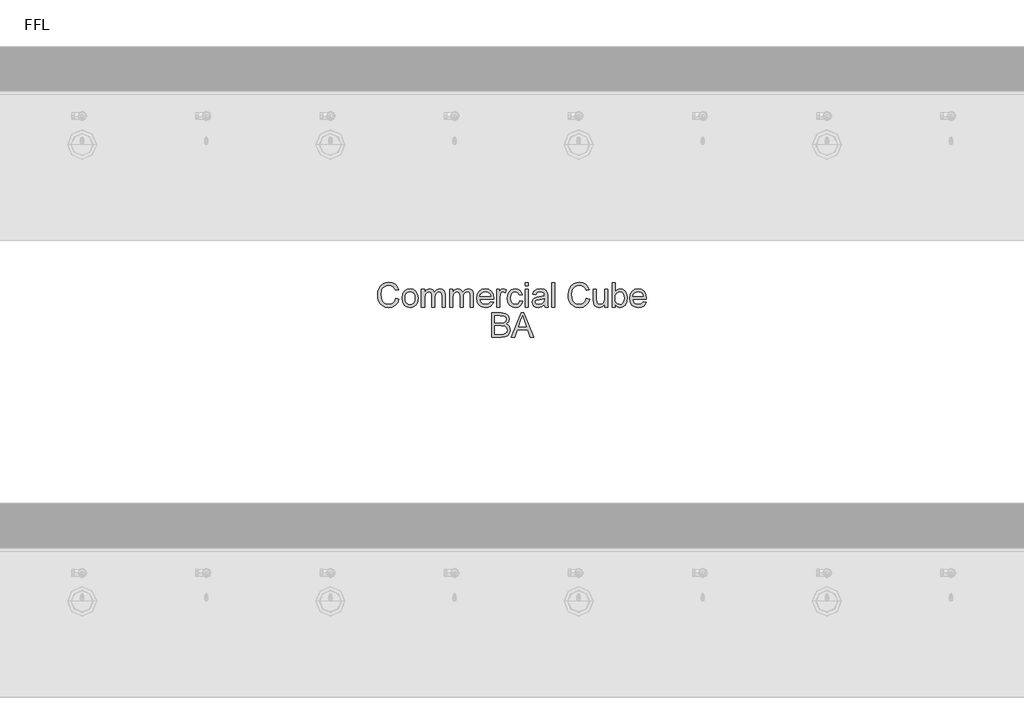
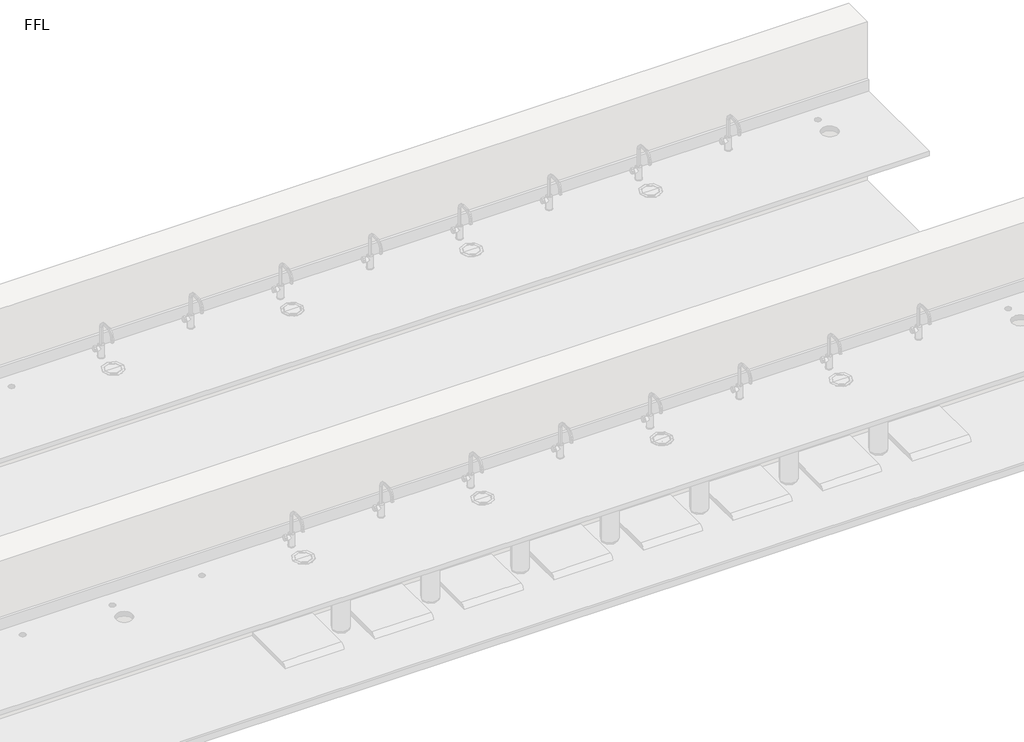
# One storey, part 14 of 14: 1 proxy.
"""IFC4 building model written with IfcOpenShell, lengths in millimetres."""

from ifc_helpers import new_model, si_unit, origin, origin_with_axes, place, context, project, spatial, polyline, outline, extrude, element, save

model = new_model("IFC4")

# Units and contexts
model_context = context("Model", 3, world=origin())
ifc_project = project(units=[si_unit("LENGTHUNIT", "METRE", prefix="MILLI")], contexts=[model_context])

# Site, building, storey
site = spatial("IfcSite", under=ifc_project)
building = spatial("IfcBuilding", under=site)
storey = spatial("IfcBuildingStorey", under=building, Name="FFL", Elevation=0.0)

# Proxy
placement = place(None, origin())
element("IfcBuildingElementProxy", 1, Name="150mm Arial", ObjectType="150mm Arial", at=placement, inside=storey, context=model_context, shape_type="SweptSolid", body=[
    extrude(outline(polyline([(6926.0339379, 6596.3018309), (6944.4954764, 6591.5422155), (6935.9768466, 6570.0292948), (6922.6084571, 6554.3126482), (6905.048361, 6544.698766), (6883.954611, 6541.4941386), (6862.540849, 6543.9190184), (6845.5351398, 6551.1936578), (6832.5002841, 6563.065653), (6822.9990821, 6579.2826001), (6817.1983009, 6598.3481049), (6815.2647071, 6618.7657732), (6817.4507047, 6640.3012299), (6824.0086975, 6658.8979847), (6834.5961374, 6673.9655929), (6848.8704764, 6684.9136097), (6865.7995629, 6691.5797756), (6884.3512456, 6693.8018309), (6904.5931326, 6690.9262299), (6921.3284091, 6682.299427), (6934.0342384, 6668.4532732), (6942.1877841, 6649.9196193), (6923.7262456, 6645.5205809), (6917.3260052, 6658.9836217), (6908.5820148, 6668.2188982), (6897.3861014, 6673.5599439), (6883.6300917, 6675.3402924), (6867.7737216, 6673.3661338), (6854.7478802, 6667.4436578), (6844.8635653, 6658.1948597), (6838.4317744, 6646.2417347), (6833.7262456, 6618.8018309), (6839.2971591, 6586.9989463), (6846.4185533, 6575.1224439), (6856.6409091, 6566.6804367), (6868.8960172, 6561.6368669), (6882.1156687, 6559.955677), (6897.5258249, 6562.2453405), (6910.3668706, 6569.1143309), (6920.0618826, 6580.4905328), (6926.0339379, 6596.3018309)])), origin_with_axes(), (0.0, 0.0, 1.0), 5.0),
    extrude(outline(polyline([(6962.9570148, 6598.0326001), (6966.9504042, 6624.1834415), (6978.9305725, 6642.5638501), (6993.7322552, 6651.5692588), (7011.454611, 6654.5710617), (7030.8491422, 6650.9157131), (7046.3404283, 6639.9496674), (7056.4951759, 6622.5383092), (7059.8800917, 6599.5470232), (7058.3836975, 6580.8961818), (7053.8945148, 6566.6984655), (7046.5432528, 6556.0659535), (7036.4606206, 6548.1107251), (7024.4849595, 6543.1482852), (7011.454611, 6541.4941386), (6991.8257047, 6545.1359655), (6976.3524475, 6556.0614463), (6966.305873, 6573.8378886), (6962.9570148, 6598.0326001)]), holes=[polyline([(6981.4185533, 6598.0686578), (6983.5549716, 6581.3604246), (6989.9642264, 6569.456879), (6999.6096591, 6562.3309775), (7011.454611, 6559.955677), (7023.2454764, 6562.3444992), (7032.8728802, 6569.5109655), (7039.282135, 6581.5722636), (7041.4185533, 6598.6455809), (7039.2686134, 6614.8670352), (7032.8187937, 6626.6083213), (7023.1778682, 6633.7342227), (7011.454611, 6636.1095232), (6999.6096591, 6633.7432371), (6989.9642264, 6626.644379), (6983.5549716, 6614.7678766), (6981.4185533, 6598.0686578)])]), origin_with_axes(), (0.0, 0.0, 1.0), 5.0),
    extrude(outline(polyline([(7080.6493225, 6543.8018309), (7080.6493225, 6652.2633693), (7099.110861, 6652.2633693), (7099.110861, 6634.4148117), (7111.8031687, 6649.0362059), (7129.8680725, 6654.5710617), (7140.1355004, 6653.1603044), (7148.3656687, 6648.9280328), (7158.5339379, 6633.1167347), (7172.938986, 6649.2074799), (7191.1300917, 6654.5710617), (7205.0077961, 6652.3399919), (7215.2707167, 6645.6467828), (7221.6123634, 6634.3111458), (7223.7262456, 6618.1527924), (7223.7262456, 6543.8018309), (7205.2647071, 6543.8018309), (7205.2647071, 6610.2201001), (7203.5519667, 6625.6347636), (7197.3500437, 6633.2249078), (7186.8031687, 6636.1095232), (7176.8016663, 6634.2615665), (7168.6481206, 6628.7176963), (7163.2259451, 6619.0993068), (7161.4185533, 6605.0277924), (7161.4185533, 6543.8018309), (7142.9570148, 6543.8018309), (7142.9570148, 6612.2753886), (7138.6841783, 6630.160004), (7133.0456566, 6634.6221434), (7124.6757648, 6636.1095232), (7111.0098994, 6632.143177), (7101.923361, 6620.5326001), (7099.110861, 6598.5013501), (7099.110861, 6543.8018309), (7080.6493225, 6543.8018309)])), origin_with_axes(), (0.0, 0.0, 1.0), 5.0),
    extrude(outline(polyline([(7251.4185533, 6543.8018309), (7251.4185533, 6652.2633693), (7269.8800917, 6652.2633693), (7269.8800917, 6634.4148117), (7282.5723994, 6649.0362059), (7300.6373033, 6654.5710617), (7310.9047312, 6653.1603044), (7319.1348994, 6648.9280328), (7329.3031687, 6633.1167347), (7343.7082167, 6649.2074799), (7361.8993225, 6654.5710617), (7375.7770268, 6652.3399919), (7386.0399475, 6645.6467828), (7392.3815941, 6634.3111458), (7394.4954764, 6618.1527924), (7394.4954764, 6543.8018309), (7376.0339379, 6543.8018309), (7376.0339379, 6610.2201001), (7374.3211975, 6625.6347636), (7368.1192744, 6633.2249078), (7357.5723994, 6636.1095232), (7347.570897, 6634.2615665), (7339.4173514, 6628.7176963), (7333.9951759, 6619.0993068), (7332.1877841, 6605.0277924), (7332.1877841, 6543.8018309), (7313.7262456, 6543.8018309), (7313.7262456, 6612.2753886), (7309.4534091, 6630.160004), (7303.8148874, 6634.6221434), (7295.4449956, 6636.1095232), (7281.7791302, 6632.143177), (7272.6925917, 6620.5326001), (7269.8800917, 6598.5013501), (7269.8800917, 6543.8018309), (7251.4185533, 6543.8018309)])), origin_with_axes(), (0.0, 0.0, 1.0), 5.0),
    extrude(outline(polyline([(7498.1252841, 6576.1095232), (7516.2262456, 6573.8018309), (7509.7043105, 6560.1630088), (7499.2971591, 6549.9676963), (7485.2391663, 6543.612528), (7467.7647071, 6541.4941386), (7446.1030485, 6545.1494871), (7429.4353802, 6556.1155328), (7418.8073754, 6573.6801362), (7415.2647071, 6597.1311578), (7418.8434331, 6621.3709415), (7429.579611, 6639.4989463), (7446.0219187, 6650.8030328), (7466.7190341, 6654.5710617), (7486.7716182, 6650.8120472), (7502.7947552, 6639.535004), (7513.3010653, 6621.4430568), (7516.8031687, 6597.2393309), (7516.6949956, 6592.2633693), (7433.7262456, 6592.2633693), (7436.9218586, 6578.4442588), (7444.345236, 6568.285004), (7455.0588778, 6562.0380088), (7468.1252841, 6559.955677), (7486.2262456, 6563.8138501), (7498.1252841, 6576.1095232)]), holes=[polyline([(7433.7262456, 6610.7249078), (7498.3416302, 6610.7249078), (7495.844635, 6620.4785136), (7490.9498033, 6627.455677), (7480.1865821, 6633.9460617), (7466.6469187, 6636.1095232), (7454.2025076, 6634.3832612), (7443.9125437, 6629.2044751), (7436.759599, 6621.1320592), (7433.7262456, 6610.7249078)])]), origin_with_axes(), (0.0, 0.0, 1.0), 5.0),
    extrude(outline(polyline([(7535.2647071, 6543.8018309), (7535.2647071, 6652.2633693), (7551.4185533, 6652.2633693), (7551.4185533, 6636.2176963), (7562.8848994, 6651.0013501), (7574.423361, 6654.5710617), (7592.9570148, 6648.8739463), (7586.7911494, 6632.3234655), (7573.8103802, 6636.1095232), (7563.3716783, 6632.4676963), (7556.7190341, 6622.3715424), (7553.7262456, 6600.8090424), (7553.7262456, 6543.8018309), (7535.2647071, 6543.8018309)])), origin_with_axes(), (0.0, 0.0, 1.0), 5.0),
    extrude(outline(polyline([(7673.7262456, 6583.0326001), (7692.1877841, 6580.7249078), (7687.0405485, 6564.3051362), (7677.3680725, 6551.8967828), (7664.0808129, 6544.0947996), (7648.0892264, 6541.4941386), (7628.4513057, 6545.1224439), (7613.095236, 6556.0073597), (7603.1838778, 6573.6711217), (7599.8800917, 6597.6359655), (7605.5231206, 6628.3030328), (7612.6445148, 6639.8009294), (7622.7226398, 6648.0085617), (7634.7794307, 6652.9304367), (7647.8368225, 6654.5710617), (7663.4362816, 6652.3174559), (7675.907736, 6645.5566386), (7684.8545509, 6634.6491867), (7689.8800917, 6619.955677), (7671.4185533, 6617.6479847), (7662.8548514, 6631.4761097), (7647.9810533, 6636.1095232), (7636.0504643, 6633.8288742), (7626.5808129, 6626.986927), (7620.4014259, 6615.2140905), (7618.3416302, 6598.1407732), (7620.3563538, 6580.8375881), (7626.4005244, 6569.0241867), (7635.6989018, 6562.2228044), (7647.4762456, 6559.955677), (7657.0360413, 6561.3709415), (7664.8740821, 6565.6167347), (7670.5757047, 6572.8012299), (7673.7262456, 6583.0326001)])), origin_with_axes(), (0.0, 0.0, 1.0), 5.0),
    extrude(outline(polyline([(7708.3416302, 6673.0326001), (7708.3416302, 6691.4941386), (7726.8031687, 6691.4941386), (7726.8031687, 6673.0326001), (7708.3416302, 6673.0326001)])), origin_with_axes(), (0.0, 0.0, 1.0), 5.0),
    extrude(outline(polyline([(7708.3416302, 6543.8018309), (7708.3416302, 6652.2633693), (7726.8031687, 6652.2633693), (7726.8031687, 6543.8018309), (7708.3416302, 6543.8018309)])), origin_with_axes(), (0.0, 0.0, 1.0), 5.0),
    extrude(outline(polyline([(7823.7262456, 6557.6479847), (7805.8236014, 6545.1359655), (7786.0459571, 6541.4941386), (7770.617772, 6543.6846434), (7759.2370629, 6550.2561578), (7752.2193345, 6560.2351242), (7749.8800917, 6572.6479847), (7753.4137456, 6587.2513501), (7762.6986014, 6597.8523117), (7775.6252841, 6603.910004), (7791.5988417, 6606.6864463), (7823.6180725, 6613.0326001), (7823.7262456, 6617.143177), (7822.4552119, 6625.3823597), (7818.642111, 6630.7729847), (7810.1144667, 6634.7753886), (7798.2334571, 6636.1095232), (7779.5555725, 6632.5578405), (7770.6493225, 6619.955677), (7752.1877841, 6622.2633693), (7760.1745629, 6640.2922155), (7776.2562937, 6650.8571193), (7800.6132648, 6654.5710617), (7822.9870629, 6651.2898117), (7835.6252841, 6643.050629), (7841.2863417, 6630.5205809), (7842.1877841, 6614.3667347), (7842.1877841, 6591.3979847), (7843.1252841, 6559.3246674), (7846.8031687, 6543.8018309), (7828.3416302, 6543.8018309), (7823.7262456, 6557.6479847)]), holes=[polyline([(7823.7262456, 6594.5710617), (7793.9425917, 6588.910004), (7778.0591783, 6585.9172155), (7770.8656687, 6581.049427), (7768.3416302, 6573.9460617), (7773.8404283, 6563.9580809), (7789.9762456, 6559.955677), (7808.6541302, 6564.3727443), (7820.6973994, 6575.0638501), (7823.6180725, 6589.3426963), (7823.7262456, 6594.5710617)])]), origin_with_axes(), (0.0, 0.0, 1.0), 5.0),
    extrude(outline(polyline([(7867.5723994, 6543.8018309), (7867.5723994, 6691.4941386), (7886.0339379, 6691.4941386), (7886.0339379, 6543.8018309), (7867.5723994, 6543.8018309)])), origin_with_axes(), (0.0, 0.0, 1.0), 5.0),
    extrude(outline(polyline([(8077.5723994, 6596.3018309), (8096.0339379, 6591.5422155), (8087.5153081, 6570.0292948), (8074.1469187, 6554.3126482), (8056.5868225, 6544.698766), (8035.4930725, 6541.4941386), (8014.0793105, 6543.9190184), (7997.0736014, 6551.1936578), (7984.0387456, 6563.065653), (7974.5375437, 6579.2826001), (7968.7367624, 6598.3481049), (7966.8031687, 6618.7657732), (7968.9891663, 6640.3012299), (7975.5471591, 6658.8979847), (7986.134599, 6673.9655929), (8000.4089379, 6684.9136097), (8017.3380244, 6691.5797756), (8035.8897071, 6693.8018309), (8056.1315941, 6690.9262299), (8072.8668706, 6682.299427), (8085.5726999, 6668.4532732), (8093.7262456, 6649.9196193), (8075.2647071, 6645.5205809), (8068.8644667, 6658.9836217), (8060.1204764, 6668.2188982), (8048.9245629, 6673.5599439), (8035.1685533, 6675.3402924), (8019.3121831, 6673.3661338), (8006.2863417, 6667.4436578), (7996.4020268, 6658.1948597), (7989.970236, 6646.2417347), (7985.2647071, 6618.8018309), (7990.8356206, 6586.9989463), (7997.9570148, 6575.1224439), (8008.1793706, 6566.6804367), (8020.4344788, 6561.6368669), (8033.6541302, 6559.955677), (8049.0642865, 6562.2453405), (8061.9053321, 6569.1143309), (8071.6003441, 6580.4905328), (8077.5723994, 6596.3018309)])), origin_with_axes(), (0.0, 0.0, 1.0), 5.0),
    extrude(outline(polyline([(8188.3416302, 6543.8018309), (8188.3416302, 6562.4436578), (8173.8824956, 6546.7315184), (8155.0243225, 6541.4941386), (8137.6625437, 6545.1720232), (8125.6913898, 6554.4027924), (8120.1925917, 6567.9965424), (8119.110861, 6585.160004), (8119.110861, 6652.2633693), (8137.5723994, 6652.2633693), (8137.5723994, 6593.8499078), (8138.6901879, 6575.0277924), (8145.9918706, 6563.9761097), (8159.7478802, 6559.955677), (8175.1625437, 6564.066254), (8185.3488417, 6575.2621674), (8188.3416302, 6595.8330809), (8188.3416302, 6652.2633693), (8206.8031687, 6652.2633693), (8206.8031687, 6543.8018309), (8188.3416302, 6543.8018309)])), origin_with_axes(), (0.0, 0.0, 1.0), 5.0),
    extrude(outline(polyline([(8250.6493225, 6543.8018309), (8232.1877841, 6543.8018309), (8232.1877841, 6691.4941386), (8250.6493225, 6691.4941386), (8250.6493225, 6636.722504), (8263.5760052, 6650.1089222), (8279.6397071, 6654.5710617), (8298.1373033, 6650.550629), (8312.4882648, 6639.2465424), (8321.3043706, 6621.6684174), (8324.4954764, 6599.6551963), (8321.1916903, 6575.0097636), (8311.2803321, 6556.674427), (8296.7355605, 6545.2892107), (8279.5315341, 6541.4941386), (8263.1162696, 6546.3889703), (8250.6493225, 6561.0734655), (8250.6493225, 6543.8018309)]), holes=[polyline([(8250.6493225, 6598.7898117), (8251.9113417, 6583.393177), (8255.6973994, 6572.972504), (8265.3698754, 6563.2098838), (8277.9449956, 6559.955677), (8288.6000437, 6562.3535136), (8297.704611, 6569.5470232), (8303.9516062, 6581.4911338), (8306.0339379, 6598.1407732), (8304.0372432, 6615.033802), (8298.0471591, 6626.8426963), (8289.2265461, 6633.7928165), (8278.7382648, 6636.1095232), (8268.0832167, 6633.7116867), (8258.9786494, 6626.518177), (8252.7316542, 6614.7904126), (8250.6493225, 6598.7898117)])]), origin_with_axes(), (0.0, 0.0, 1.0), 5.0),
    extrude(outline(polyline([(8421.2022071, 6576.1095232), (8439.3031687, 6573.8018309), (8432.7812336, 6560.1630088), (8422.3740821, 6549.9676963), (8408.3160893, 6543.612528), (8390.8416302, 6541.4941386), (8369.1799716, 6545.1494871), (8352.5123033, 6556.1155328), (8341.8842985, 6573.6801362), (8338.3416302, 6597.1311578), (8341.9203562, 6621.3709415), (8352.6565341, 6639.4989463), (8369.0988417, 6650.8030328), (8389.7959571, 6654.5710617), (8409.8485413, 6650.8120472), (8425.8716783, 6639.535004), (8436.3779884, 6621.4430568), (8439.8800917, 6597.2393309), (8439.7719187, 6592.2633693), (8356.8031687, 6592.2633693), (8359.9987816, 6578.4442588), (8367.4221591, 6568.285004), (8378.1358009, 6562.0380088), (8391.2022071, 6559.955677), (8409.3031687, 6563.8138501), (8421.2022071, 6576.1095232)]), holes=[polyline([(8356.8031687, 6610.7249078), (8421.4185533, 6610.7249078), (8418.9215581, 6620.4785136), (8414.0267264, 6627.455677), (8403.2635052, 6633.9460617), (8389.7238417, 6636.1095232), (8377.2794307, 6634.3832612), (8366.9894667, 6629.2044751), (8359.836522, 6621.1320592), (8356.8031687, 6610.7249078)])]), origin_with_axes(), (0.0, 0.0, 1.0), 5.0),
    extrude(outline(polyline([(7505.2647071, 6361.4941386), (7505.2647071, 6509.1864463), (7561.6228802, 6509.1864463), (7589.2250437, 6504.8414943), (7598.500885, 6499.3291746), (7605.5231206, 6491.4821193), (7611.4185533, 6472.5878886), (7606.4606206, 6455.3342828), (7591.4786494, 6442.2633693), (7601.9398874, 6436.800629), (7609.6697552, 6428.4893309), (7614.4428922, 6417.8793549), (7616.0339379, 6405.5205809), (7611.688986, 6385.6708213), (7600.9257648, 6371.5362059), (7584.8620629, 6364.0362059), (7561.1901879, 6361.4941386), (7505.2647071, 6361.4941386)]), holes=[polyline([(7523.7262456, 6449.1864463), (7557.4401879, 6449.1864463), (7577.1276879, 6450.7729847), (7588.9726398, 6457.6059174), (7592.9570148, 6469.6311578), (7589.2430725, 6481.674427), (7578.6060533, 6488.7958213), (7554.8800917, 6490.7249078), (7523.7262456, 6490.7249078), (7523.7262456, 6449.1864463)]), polyline([(7523.7262456, 6379.955677), (7561.5868225, 6379.955677), (7575.2887456, 6380.6768309), (7586.8812937, 6384.6972636), (7594.5615821, 6392.9003886), (7597.5723994, 6405.3402924), (7594.0387456, 6419.691254), (7582.5904283, 6428.2549559), (7559.7839379, 6430.7249078), (7523.7262456, 6430.7249078), (7523.7262456, 6379.955677)])]), origin_with_axes(), (0.0, 0.0, 1.0), 5.0),
    extrude(outline(polyline([(7624.2190341, 6361.4941386), (7683.173361, 6509.1864463), (7698.8945148, 6509.1864463), (7757.8488417, 6361.4941386), (7738.3416302, 6361.4941386), (7721.4305725, 6407.6479847), (7660.6012456, 6407.6479847), (7643.7262456, 6361.4941386), (7624.2190341, 6361.4941386)]), holes=[polyline([(7667.3800917, 6426.1095232), (7714.6877841, 6426.1095232), (7701.3824956, 6462.4196193), (7691.0339379, 6490.7249078), (7681.8392264, 6465.5926963), (7667.3800917, 6426.1095232)])]), origin_with_axes(), (0.0, 0.0, 1.0), 5.0),
])

save(model, "model.ifc")
